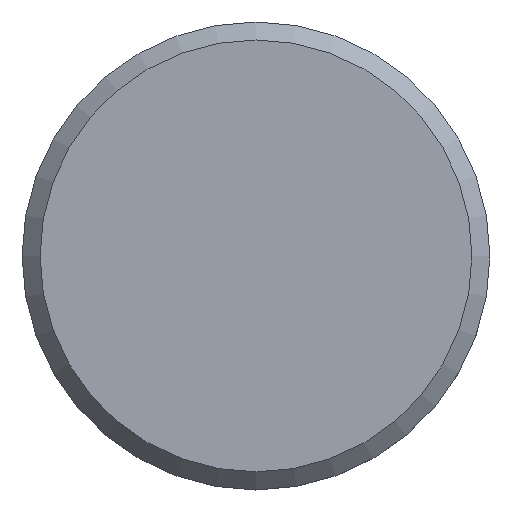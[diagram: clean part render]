
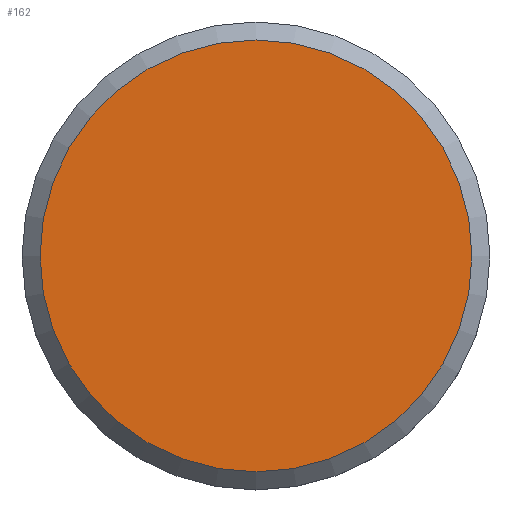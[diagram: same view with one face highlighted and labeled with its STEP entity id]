
A CAD part, top view. The second image highlights one B-rep face of the part: STEP entity #162.
In plain terms, the highlighted planar face has unit normal (0, 0, 1).
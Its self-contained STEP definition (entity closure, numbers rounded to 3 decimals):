
#1 = DIRECTION ( 'NONE',  ( -1., 0., 0. ) ) ;
#35 = DIRECTION ( 'NONE',  ( 0., 0., 1. ) ) ;
#36 = VERTEX_POINT ( 'NONE', #105 ) ;
#45 = CARTESIAN_POINT ( 'NONE',  ( 0., 0., 0. ) ) ;
#48 = DIRECTION ( 'NONE',  ( 1., 0., 0. ) ) ;
#50 = CARTESIAN_POINT ( 'NONE',  ( 0., 0., 0. ) ) ;
#73 = AXIS2_PLACEMENT_3D ( 'NONE', #50, #35, #48 ) ;
#97 = PLANE ( 'NONE',  #122 ) ;
#105 = CARTESIAN_POINT ( 'NONE',  ( 6., 0., 0. ) ) ;
#107 = EDGE_CURVE ( 'NONE', #36, #36, #121, .T. ) ;
#117 = DIRECTION ( 'NONE',  ( 0., 0., -1. ) ) ;
#121 = CIRCLE ( 'NONE', #73, 6. ) ;
#122 = AXIS2_PLACEMENT_3D ( 'NONE', #45, #117, #1 ) ;
#155 = EDGE_LOOP ( 'NONE', ( #195 ) ) ;
#162 = ADVANCED_FACE ( 'NONE', ( #199 ), #97, .F. ) ;
#195 = ORIENTED_EDGE ( 'NONE', *, *, #107, .T. ) ;
#199 = FACE_OUTER_BOUND ( 'NONE', #155, .T. ) ;
